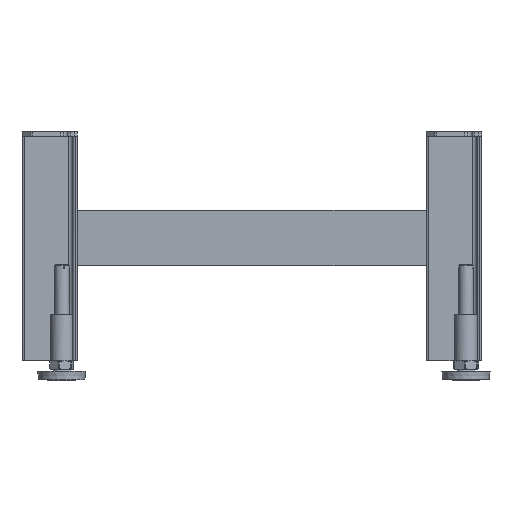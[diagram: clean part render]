
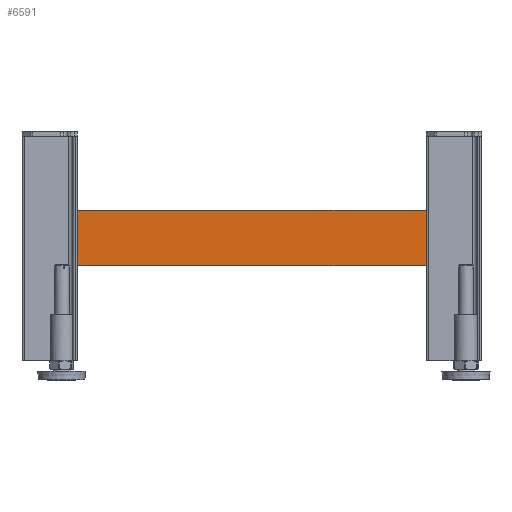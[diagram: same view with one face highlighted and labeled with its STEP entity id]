
A CAD part, front view. The second image highlights one B-rep face of the part: STEP entity #6591.
In plain terms, the highlighted planar face has unit normal (0, -1, 0).
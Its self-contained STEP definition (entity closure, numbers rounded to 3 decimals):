
#514=FACE_OUTER_BOUND('',#897,.T.);
#897=EDGE_LOOP('',(#4812,#4813,#4814,#4815));
#1356=LINE('',#10342,#1876);
#1375=LINE('',#10392,#1895);
#1377=LINE('',#10395,#1897);
#1378=LINE('',#10396,#1898);
#1876=VECTOR('',#8283,10.);
#1895=VECTOR('',#8328,10.);
#1897=VECTOR('',#8332,10.);
#1898=VECTOR('',#8333,10.);
#2748=VERTEX_POINT('',#10339);
#2749=VERTEX_POINT('',#10341);
#2766=VERTEX_POINT('',#10389);
#2767=VERTEX_POINT('',#10391);
#3489=EDGE_CURVE('',#2748,#2749,#1356,.T.);
#3514=EDGE_CURVE('',#2767,#2766,#1375,.T.);
#3516=EDGE_CURVE('',#2749,#2766,#1377,.T.);
#3517=EDGE_CURVE('',#2748,#2767,#1378,.T.);
#4812=ORIENTED_EDGE('',*,*,#3516,.F.);
#4813=ORIENTED_EDGE('',*,*,#3489,.F.);
#4814=ORIENTED_EDGE('',*,*,#3517,.T.);
#4815=ORIENTED_EDGE('',*,*,#3514,.T.);
#6112=PLANE('',#7130);
#6591=ADVANCED_FACE('',(#514),#6112,.T.);
#7130=AXIS2_PLACEMENT_3D('',#10394,#8330,#8331);
#8283=DIRECTION('',(-1.,0.,0.));
#8328=DIRECTION('',(-1.,0.,0.));
#8330=DIRECTION('center_axis',(0.,-1.,0.));
#8331=DIRECTION('ref_axis',(0.,0.,
1.));
#8332=DIRECTION('',(0.,0.,1.));
#8333=DIRECTION('',(0.,0.,1.));
#10339=CARTESIAN_POINT('',(884.161,-422.677,-421.161));
#10341=CARTESIAN_POINT('',(507.161,-422.677,-421.161));
#10342=CARTESIAN_POINT('',(944.161,-422.677,-421.161));
#10389=CARTESIAN_POINT('',(507.161,-422.677,-361.161));
#10391=CARTESIAN_POINT('',(884.161,-422.677,-361.161));
#10392=CARTESIAN_POINT('',(944.161,-422.677,-361.161));
#10394=CARTESIAN_POINT('Origin',(944.161,-422.677,-421.161));
#10395=CARTESIAN_POINT('',(507.161,-422.677,-524.161));
#10396=CARTESIAN_POINT('',(884.161,-422.677,-524.161));
